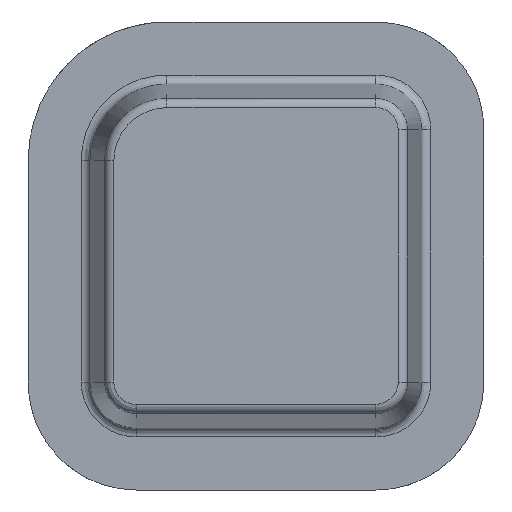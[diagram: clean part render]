
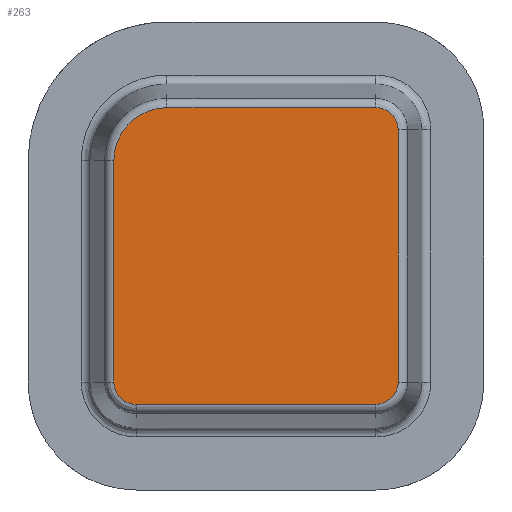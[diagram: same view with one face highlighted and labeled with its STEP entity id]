
A CAD part, front view. The second image highlights one B-rep face of the part: STEP entity #263.
In plain terms, the highlighted planar face has unit normal (0, -1, 0).
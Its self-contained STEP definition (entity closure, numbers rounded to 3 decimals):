
#144=CARTESIAN_POINT('Axis2P3D Location',(50.08,0.,49.92)) ;
#149=CARTESIAN_POINT('Line Origine',(2.749,0.,46.)) ;
#153=CARTESIAN_POINT('Vertex',(2.749,0.,82.)) ;
#155=CARTESIAN_POINT('Vertex',(2.749,0.,10.)) ;
#159=CARTESIAN_POINT('Control Point',(2.749,0.,10.)) ;
#160=CARTESIAN_POINT('Control Point',(2.749,0.,9.038)) ;
#161=CARTESIAN_POINT('Control Point',(2.908,0.,8.076)) ;
#162=CARTESIAN_POINT('Control Point',(3.227,0.,7.152)) ;
#163=CARTESIAN_POINT('Control Point',(4.158,0.,5.442)) ;
#164=CARTESIAN_POINT('Control Point',(5.59,0.,4.123)) ;
#165=CARTESIAN_POINT('Control Point',(6.41,0.,3.589)) ;
#166=CARTESIAN_POINT('Control Point',(7.601,0.,3.071)) ;
#167=CARTESIAN_POINT('Control Point',(8.862,0.,2.828)) ;
#168=CARTESIAN_POINT('Control Point',(9.181,0.,2.785)) ;
#169=CARTESIAN_POINT('Control Point',(9.537,0.,2.756)) ;
#170=CARTESIAN_POINT('Control Point',(9.893,0.,2.75)) ;
#171=CARTESIAN_POINT('Control Point',(9.929,0.,2.749)) ;
#172=CARTESIAN_POINT('Control Point',(9.964,0.,2.749)) ;
#173=CARTESIAN_POINT('Control Point',(10.,0.,2.749)) ;
#174=CARTESIAN_POINT('Vertex',(10.,0.,2.749)) ;
#177=CARTESIAN_POINT('Line Origine',(49.,0.,2.749)) ;
#181=CARTESIAN_POINT('Vertex',(88.,0.,2.749)) ;
#185=CARTESIAN_POINT('Control Point',(88.,0.,2.749)) ;
#186=CARTESIAN_POINT('Control Point',(88.962,0.,2.749)) ;
#187=CARTESIAN_POINT('Control Point',(89.924,0.,2.908)) ;
#188=CARTESIAN_POINT('Control Point',(90.848,0.,3.227)) ;
#189=CARTESIAN_POINT('Control Point',(92.558,0.,4.158)) ;
#190=CARTESIAN_POINT('Control Point',(93.877,0.,5.59)) ;
#191=CARTESIAN_POINT('Control Point',(94.411,0.,6.41)) ;
#192=CARTESIAN_POINT('Control Point',(94.929,0.,7.601)) ;
#193=CARTESIAN_POINT('Control Point',(95.172,0.,8.862)) ;
#194=CARTESIAN_POINT('Control Point',(95.215,0.,9.181)) ;
#195=CARTESIAN_POINT('Control Point',(95.244,0.,9.537)) ;
#196=CARTESIAN_POINT('Control Point',(95.25,0.,9.893)) ;
#197=CARTESIAN_POINT('Control Point',(95.251,0.,9.929)) ;
#198=CARTESIAN_POINT('Control Point',(95.251,0.,9.964)) ;
#199=CARTESIAN_POINT('Control Point',(95.251,0.,10.)) ;
#200=CARTESIAN_POINT('Vertex',(95.251,0.,10.)) ;
#203=CARTESIAN_POINT('Line Origine',(95.251,0.,51.)) ;
#207=CARTESIAN_POINT('Vertex',(95.251,0.,92.)) ;
#211=CARTESIAN_POINT('Control Point',(95.251,0.,92.)) ;
#212=CARTESIAN_POINT('Control Point',(95.251,0.,92.962)) ;
#213=CARTESIAN_POINT('Control Point',(95.092,0.,93.924)) ;
#214=CARTESIAN_POINT('Control Point',(94.773,0.,94.848)) ;
#215=CARTESIAN_POINT('Control Point',(93.842,0.,96.558)) ;
#216=CARTESIAN_POINT('Control Point',(92.41,0.,97.877)) ;
#217=CARTESIAN_POINT('Control Point',(91.59,0.,98.411)) ;
#218=CARTESIAN_POINT('Control Point',(90.399,0.,98.929)) ;
#219=CARTESIAN_POINT('Control Point',(89.138,0.,99.172)) ;
#220=CARTESIAN_POINT('Control Point',(88.819,0.,99.215)) ;
#221=CARTESIAN_POINT('Control Point',(88.463,0.,99.244)) ;
#222=CARTESIAN_POINT('Control Point',(88.107,0.,99.25)) ;
#223=CARTESIAN_POINT('Control Point',(88.071,0.,99.251)) ;
#224=CARTESIAN_POINT('Control Point',(88.036,0.,99.251)) ;
#225=CARTESIAN_POINT('Control Point',(88.,0.,99.251)) ;
#226=CARTESIAN_POINT('Vertex',(88.,0.,99.251)) ;
#229=CARTESIAN_POINT('Line Origine',(54.,0.,99.251)) ;
#233=CARTESIAN_POINT('Vertex',(20.,0.,99.251)) ;
#237=CARTESIAN_POINT('Control Point',(20.,0.,99.251)) ;
#238=CARTESIAN_POINT('Control Point',(18.077,0.,99.251)) ;
#239=CARTESIAN_POINT('Control Point',(16.153,0.,98.983)) ;
#240=CARTESIAN_POINT('Control Point',(14.282,0.,98.447)) ;
#241=CARTESIAN_POINT('Control Point',(10.736,0.,96.869)) ;
#242=CARTESIAN_POINT('Control Point',(7.757,0.,94.382)) ;
#243=CARTESIAN_POINT('Control Point',(6.451,0.,92.937)) ;
#244=CARTESIAN_POINT('Control Point',(4.493,0.,90.044)) ;
#245=CARTESIAN_POINT('Control Point',(3.313,0.,86.767)) ;
#246=CARTESIAN_POINT('Control Point',(2.954,0.,85.257)) ;
#247=CARTESIAN_POINT('Control Point',(2.762,0.,83.684)) ;
#248=CARTESIAN_POINT('Control Point',(2.749,0.,82.108)) ;
#249=CARTESIAN_POINT('Control Point',(2.749,0.,82.072)) ;
#250=CARTESIAN_POINT('Control Point',(2.749,0.,82.036)) ;
#251=CARTESIAN_POINT('Control Point',(2.749,0.,82.)) ;
#145=DIRECTION('Axis2P3D Direction',(0.,-1.,0.)) ;
#146=DIRECTION('Axis2P3D XDirection',(0.458,0.,0.889)) ;
#150=DIRECTION('Vector Direction',(0.,0.,1.)) ;
#178=DIRECTION('Vector Direction',(1.,0.,0.)) ;
#204=DIRECTION('Vector Direction',(0.,0.,1.)) ;
#230=DIRECTION('Vector Direction',(-1.,0.,0.)) ;
#147=AXIS2_PLACEMENT_3D('Plane Axis2P3D',#144,#145,#146) ;
#254=ORIENTED_EDGE('',*,*,#157,.T.) ;
#255=ORIENTED_EDGE('',*,*,#176,.T.) ;
#256=ORIENTED_EDGE('',*,*,#183,.T.) ;
#257=ORIENTED_EDGE('',*,*,#202,.T.) ;
#258=ORIENTED_EDGE('',*,*,#209,.T.) ;
#259=ORIENTED_EDGE('',*,*,#228,.T.) ;
#260=ORIENTED_EDGE('',*,*,#235,.T.) ;
#261=ORIENTED_EDGE('',*,*,#252,.T.) ;
#151=VECTOR('Line Direction',#150,1.) ;
#179=VECTOR('Line Direction',#178,1.) ;
#205=VECTOR('Line Direction',#204,1.) ;
#231=VECTOR('Line Direction',#230,1.) ;
#263=ADVANCED_FACE('base',(#262),#148,.T.) ;
#158=B_SPLINE_CURVE_WITH_KNOTS('',5,(#159,#160,#161,#162,#163,#164,#165,#166,#167,#168,#169,#170,#171,#172,#173),.UNSPECIFIED.,.F.,.U.,(6,3,3,3,6),(25.169,34.943,44.722,47.981,48.343),.UNSPECIFIED.) ;
#184=B_SPLINE_CURVE_WITH_KNOTS('',5,(#185,#186,#187,#188,#189,#190,#191,#192,#193,#194,#195,#196,#197,#198,#199),.UNSPECIFIED.,.F.,.U.,(6,3,3,3,6),(25.169,34.943,44.722,47.981,48.343),.UNSPECIFIED.) ;
#210=B_SPLINE_CURVE_WITH_KNOTS('',5,(#211,#212,#213,#214,#215,#216,#217,#218,#219,#220,#221,#222,#223,#224,#225),.UNSPECIFIED.,.F.,.U.,(6,3,3,3,6),(25.17,34.943,44.722,47.982,48.343),.UNSPECIFIED.) ;
#236=B_SPLINE_CURVE_WITH_KNOTS('',5,(#237,#238,#239,#240,#241,#242,#243,#244,#245,#246,#247,#248,#249,#250,#251),.UNSPECIFIED.,.F.,.U.,(6,3,3,3,6),(37.137,53.038,68.957,81.684,81.982),.UNSPECIFIED.) ;
#157=EDGE_CURVE('',#154,#156,#152,.F.) ;
#176=EDGE_CURVE('',#156,#175,#158,.T.) ;
#183=EDGE_CURVE('',#175,#182,#180,.T.) ;
#202=EDGE_CURVE('',#182,#201,#184,.T.) ;
#209=EDGE_CURVE('',#201,#208,#206,.T.) ;
#228=EDGE_CURVE('',#208,#227,#210,.T.) ;
#235=EDGE_CURVE('',#227,#234,#232,.T.) ;
#252=EDGE_CURVE('',#234,#154,#236,.T.) ;
#253=EDGE_LOOP('',(#254,#255,#256,#257,#258,#259,#260,#261)) ;
#262=FACE_OUTER_BOUND('',#253,.T.) ;
#152=LINE('Line',#149,#151) ;
#180=LINE('Line',#177,#179) ;
#206=LINE('Line',#203,#205) ;
#232=LINE('Line',#229,#231) ;
#148=PLANE('',#147) ;
#154=VERTEX_POINT('',#153) ;
#156=VERTEX_POINT('',#155) ;
#175=VERTEX_POINT('',#174) ;
#182=VERTEX_POINT('',#181) ;
#201=VERTEX_POINT('',#200) ;
#208=VERTEX_POINT('',#207) ;
#227=VERTEX_POINT('',#226) ;
#234=VERTEX_POINT('',#233) ;
